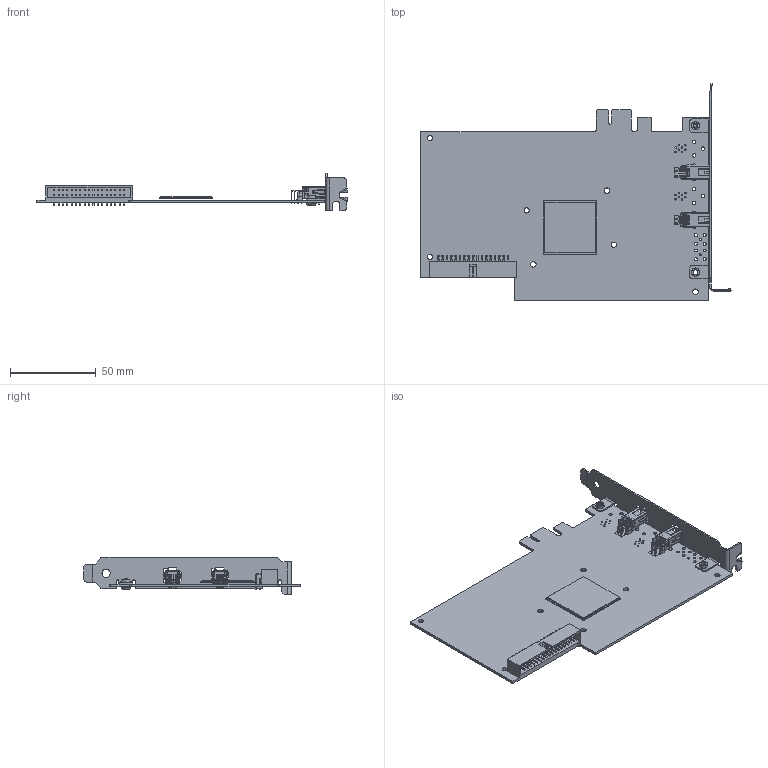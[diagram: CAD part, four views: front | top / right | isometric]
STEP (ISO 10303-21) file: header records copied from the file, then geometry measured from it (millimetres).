
FILE_DESCRIPTION((''),'2;1');
FILE_NAME('CU_PCIE-8510-2CH','2017-08-15T',('huydo'),(''),'CREO PARAMETRIC BY PTC INC, 2015380','CREO PARAMETRIC BY PTC INC, 2015380','');
FILE_SCHEMA(('CONFIG_CONTROL_DESIGN'));
Products named in the file (1): CU_PCIE-8510-2CH
Bounding box: 180.92 x 126.32 x 21.59 mm (x, y, z)
Volume: 31751.9 mm3; surface area: 46098.9 mm2
Topology: 2 solids, 3 shells, 2078 faces, 6078 edges, 3991 vertices
Faces by surface type: plane 1323, cylinder 710, bspline 17, cone 12, torus 10, extrusion 6
Entity records: 75761 total; most frequent: CARTESIAN_POINT 19744, ORIENTED_EDGE 12148, DIRECTION 11031, EDGE_CURVE 6074, VECTOR 4359, LINE 4353, VERTEX_POINT 3991, AXIS2_PLACEMENT_3D 3336
